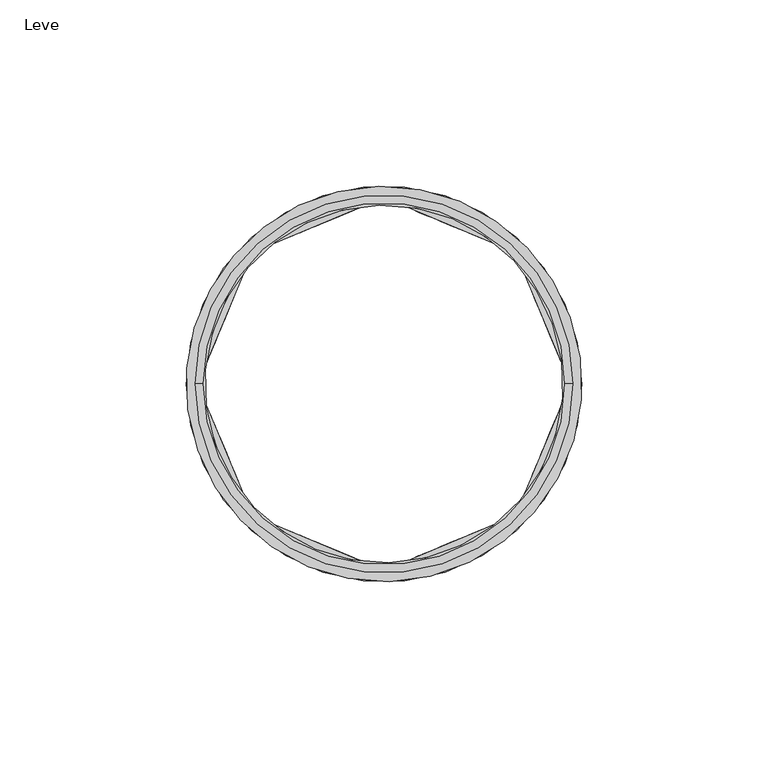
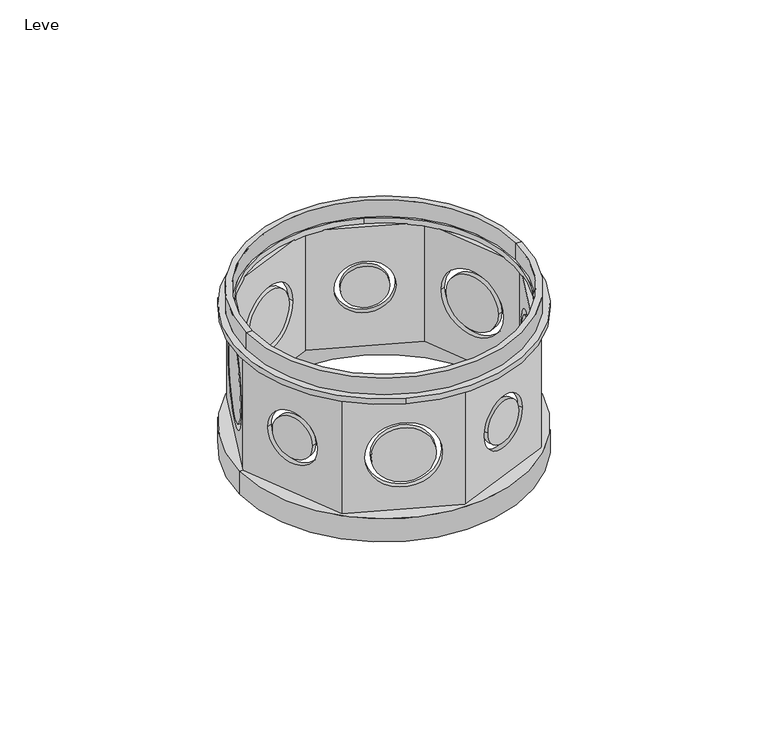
"""IFC4 building model written with IfcOpenShell, lengths in millimetres: pipe fitting geometry, AmancoWavin_ConexõesdoConduite_CorrugadoZNãoUsarProlongamento : Leve."""

from ifc_helpers import new_model, si_unit, frame, origin, place, context, project, spatial, polyline, circle_curve, source, transform, mapped, element, save
from ifc_brep_helpers import plane_surface, cylinder_surface, revolved_surface, advanced_brep


def leve_6d39340a(model_context):
    return source(origin(), model_context, "Body", "AdvancedBrep", [
        advanced_brep(
        [(-53.1, 0.0, 9.1), (53.1, 0.0, 9.1), (51.9548256, 0.0, 9.1), (36.7376095, -36.7376095, 9.1), (0.0, -51.9548256, 9.1), (-36.7376095, -36.7376095, 9.1), (-51.9548256, 0.0, 9.1), (-36.7376095, 36.7376095, 9.1), (0.0, 51.9548256, 9.1), (36.7376095, 36.7376095, 9.1), (51.3, 0.0, 7.3), (-51.3, 0.0, 7.3), (-50.0065197, 0.0, 7.3), (-35.3599492, -35.3599492, 7.3), (0.0, -50.0065197, 7.3), (35.3599492, -35.3599492, 7.3), (50.0065197, 0.0, 7.3), (35.3599492, 35.3599492, 7.3), (0.0, 50.0065197, 7.3), (-35.3599492, 35.3599492, 7.3), (51.3, 0.0, 0.0), (-51.3, 0.0, 0.0), (53.1, 0.0, 0.0), (-53.1, 0.0, 0.0), (-50.0065197, 0.0, 53.6), (-35.3599492, 35.3599492, 53.6), (-37.7001142, 29.710291, 53.6), (-47.6663546, 5.6496582, 53.6), (-36.5602995, 32.4620471, 30.2), (-48.8061693, 2.8979021, 30.2), (-47.6663546, -5.6496582, 53.6), (-37.7001142, -29.710291, 53.6), (-35.3599492, -35.3599492, 53.6), (-46.5100687, -8.4411793, 30.2), (-38.8564001, -26.9187699, 30.2), (-29.710291, -37.7001142, 53.6), (-5.6496582, -47.6663546, 53.6), (0.0, -50.0065197, 53.6), (-29.2284687, -37.8996915, 30.2), (-6.1314804, -47.4667773, 30.2), (5.6496582, -47.6663546, 53.6), (29.710291, -37.7001142, 53.6), (35.3599492, -35.3599492, 53.6), (8.4411793, -46.5100687, 30.2), (26.9187699, -38.8564001, 30.2), (37.7001142, -29.710291, 53.6), (47.6663546, -5.6496582, 53.6), (50.0065197, 0.0, 53.6), (36.5602995, -32.4620471, 30.2), (48.8061693, -2.8979021, 30.2), (47.6663546, 5.6496582, 53.6), (37.7001142, 29.710291, 53.6), (35.3599492, 35.3599492, 53.6), (47.4667773, 6.1314804, 30.2), (37.8996915, 29.2284687, 30.2), (29.710291, 37.7001142, 53.6), (5.6496582, 47.6663546, 53.6), (0.0, 50.0065197, 53.6), (26.9187699, 38.8564001, 30.2), (8.4411793, 46.5100687, 30.2), (-5.6496582, 47.6663546, 53.6), (-29.710291, 37.7001142, 53.6), (-6.1314804, 47.4667773, 30.2), (-29.2284687, 37.8996915, 30.2), (-44.3462176, 18.3688048, 53.6), (-44.3462176, -18.3688048, 53.6), (-18.3688048, -44.3462176, 53.6), (18.3688048, -44.3462176, 53.6), (44.3462176, -18.3688048, 53.6), (44.3462176, 18.3688048, 53.6), (18.3688048, 44.3462176, 53.6), (-18.3688048, 44.3462176, 53.6), (-36.7376095, 36.7376095, 53.6), (-51.9548256, 0.0, 53.6), (-44.3462176, 18.3688048, 53.6), (-50.4691525, 3.5867322, 30.2), (-38.2232826, 33.1508773, 30.2), (-36.7376095, -36.7376095, 53.6), (-44.3462176, -18.3688048, 53.6), (-40.5193832, -27.6076001, 30.2), (-48.1730519, -9.1300094, 30.2), (0.0, -51.9548256, 53.6), (-18.3688048, -44.3462176, 53.6), (-6.8203106, -49.1297605, 30.2), (-29.9172989, -39.5626747, 30.2), (36.7376095, -36.7376095, 53.6), (18.3688048, -44.3462176, 53.6), (27.6076001, -40.5193832, 30.2), (9.1300094, -48.1730519, 30.2), (51.9548256, 0.0, 53.6), (44.3462176, -18.3688048, 53.6), (50.4691525, -3.5867322, 30.2), (38.2232826, -33.1508773, 30.2), (36.7376095, 36.7376095, 53.6), (44.3462176, 18.3688048, 53.6), (39.5626747, 29.9172989, 30.2), (49.1297605, 6.8203106, 30.2), (0.0, 51.9548256, 53.6), (18.3688048, 44.3462176, 53.6), (9.1300094, 48.1730519, 30.2), (27.6076001, 40.5193832, 30.2), (-18.3688048, 44.3462176, 53.6), (-29.9172989, 39.5626747, 30.2), (-6.8203106, 49.1297605, 30.2), (20.3204903, 49.0580032, 55.7), (-20.3204903, -49.0580032, 55.7), (50.7, 0.0, 55.7), (-50.7, 0.0, 55.7), (-48.6, 0.0, 55.7), (48.6, 0.0, 55.7), (18.3688048, 44.3462176, 55.7), (-18.3688048, -44.3462176, 55.7), (20.3204903, 49.0580032, 53.6), (-20.3204903, -49.0580032, 53.6), (-48.6, 0.0, 62.2), (48.6, 0.0, 62.2), (50.7, 0.0, 62.2), (-50.7, 0.0, 62.2)],
        [
            (0, 1, circle_curve(frame((0.0, 0.0, 9.1), z_axis=(0.0, 0.0, 1.0), x_axis=(-1.0, 0.0, 0.0)), 53.1)),
            (1, 2),
            (2, 3),
            (3, 4),
            (4, 5),
            (5, 6),
            (6, 0),
            (1, 0, circle_curve(frame((0.0, 0.0, 9.1), z_axis=(0.0, 0.0, 1.0), x_axis=(-1.0, 0.0, 0.0)), 53.1)),
            (6, 7),
            (7, 8),
            (8, 9),
            (9, 2),
            (10, 11, circle_curve(frame((0.0, 0.0, 7.3), z_axis=(0.0, 0.0, -1.0), x_axis=(-1.0, 0.0, 0.0)), 51.3)),
            (11, 12),
            (12, 13),
            (13, 14),
            (14, 15),
            (15, 16),
            (16, 10),
            (11, 10, circle_curve(frame((0.0, 0.0, 7.3), z_axis=(0.0, 0.0, -1.0), x_axis=(-1.0, 0.0, 0.0)), 51.3)),
            (16, 17),
            (17, 18),
            (18, 19),
            (19, 12),
            (10, 20),
            (20, 21, circle_curve(frame((0.0, 0.0, 0.0), z_axis=(0.0, 0.0, -1.0), x_axis=(-1.0, 0.0, 0.0)), 51.3)),
            (21, 11),
            (21, 20, circle_curve(frame((0.0, 0.0, 0.0), z_axis=(0.0, 0.0, -1.0), x_axis=(-1.0, 0.0, 0.0)), 51.3)),
            (20, 22),
            (22, 23, circle_curve(frame((0.0, 0.0, 0.0), z_axis=(0.0, 0.0, -1.0), x_axis=(-1.0, 0.0, 0.0)), 53.1)),
            (23, 21),
            (23, 22, circle_curve(frame((0.0, 0.0, 0.0), z_axis=(0.0, 0.0, -1.0), x_axis=(-1.0, 0.0, 0.0)), 53.1)),
            (0, 23),
            (22, 1),
            (24, 12),
            (19, 25),
            (25, 26),
            (26, 27),
            (27, 24),
            (28, 29, circle_curve(frame((-42.6832344, 17.6799746, 30.2), z_axis=(-0.9238795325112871, 0.38268343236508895, 0.0), x_axis=(-0.38268343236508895, -0.9238795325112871, 0.0)), 16.0)),
            (29, 28, circle_curve(frame((-42.6832344, 17.6799746, 30.2), z_axis=(-0.9238795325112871, 0.38268343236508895, 0.0), x_axis=(-0.38268343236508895, -0.9238795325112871, 0.0)), 16.0)),
            (24, 30),
            (30, 31),
            (31, 32),
            (32, 13),
            (33, 34, circle_curve(frame((-42.6832344, -17.6799746, 30.2), z_axis=(-0.9238795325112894, -0.3826834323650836, 0.0), x_axis=(0.3826834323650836, -0.9238795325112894, 0.0)), 10.0)),
            (34, 33, circle_curve(frame((-42.6832344, -17.6799746, 30.2), z_axis=(-0.9238795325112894, -0.3826834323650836, 0.0), x_axis=(0.3826834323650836, -0.9238795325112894, 0.0)), 10.0)),
            (32, 35),
            (35, 36),
            (36, 37),
            (37, 14),
            (38, 39, circle_curve(frame((-17.6799746, -42.6832344, 30.2), z_axis=(-0.38268343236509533, -0.9238795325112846, 0.0), x_axis=(-0.9238795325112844, 0.3826834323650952, 0.0)), 12.5)),
            (39, 38, circle_curve(frame((-17.6799746, -42.6832344, 30.2), z_axis=(-0.38268343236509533, -0.9238795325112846, 0.0), x_axis=(-0.9238795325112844, 0.3826834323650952, 0.0)), 12.5)),
            (37, 40),
            (40, 41),
            (41, 42),
            (42, 15),
            (43, 44, circle_curve(frame((17.6799746, -42.6832344, 30.2), z_axis=(0.3826834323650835, -0.9238795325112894, 0.0), x_axis=(0.9238795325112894, 0.3826834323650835, 0.0)), 10.0)),
            (44, 43, circle_curve(frame((17.6799746, -42.6832344, 30.2), z_axis=(0.3826834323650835, -0.9238795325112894, 0.0), x_axis=(0.9238795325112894, 0.3826834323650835, 0.0)), 10.0)),
            (42, 45),
            (45, 46),
            (46, 47),
            (47, 16),
            (48, 49, circle_curve(frame((42.6832344, -17.6799746, 30.2), z_axis=(0.9238795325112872, -0.38268343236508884, 0.0), x_axis=(-0.38268343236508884, -0.9238795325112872, 0.0)), 16.0)),
            (49, 48, circle_curve(frame((42.6832344, -17.6799746, 30.2), z_axis=(0.9238795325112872, -0.38268343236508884, 0.0), x_axis=(-0.38268343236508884, -0.9238795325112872, 0.0)), 16.0)),
            (47, 50),
            (50, 51),
            (51, 52),
            (52, 17),
            (53, 54, circle_curve(frame((42.6832344, 17.6799746, 30.2), z_axis=(0.9238795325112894, 0.38268343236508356, 0.0), x_axis=(0.38268343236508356, -0.9238795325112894, 0.0)), 12.5)),
            (54, 53, circle_curve(frame((42.6832344, 17.6799746, 30.2), z_axis=(0.9238795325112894, 0.38268343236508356, 0.0), x_axis=(0.38268343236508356, -0.9238795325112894, 0.0)), 12.5)),
            (52, 55),
            (55, 56),
            (56, 57),
            (57, 18),
            (58, 59, circle_curve(frame((17.6799746, 42.6832344, 30.2), z_axis=(0.3826834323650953, 0.9238795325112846, 0.0), x_axis=(0.9238795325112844, -0.38268343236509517, 0.0)), 10.0)),
            (59, 58, circle_curve(frame((17.6799746, 42.6832344, 30.2), z_axis=(0.3826834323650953, 0.9238795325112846, 0.0), x_axis=(0.9238795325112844, -0.38268343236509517, 0.0)), 10.0)),
            (57, 60),
            (60, 61),
            (61, 25),
            (62, 63, circle_curve(frame((-17.6799746, 42.6832344, 30.2), z_axis=(-0.3826834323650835, 0.9238795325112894, 0.0), x_axis=(-0.9238795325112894, -0.3826834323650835, 0.0)), 12.5)),
            (63, 62, circle_curve(frame((-17.6799746, 42.6832344, 30.2), z_axis=(-0.3826834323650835, 0.9238795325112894, 0.0), x_axis=(-0.9238795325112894, -0.3826834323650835, 0.0)), 12.5)),
            (26, 64, circle_curve(frame((0.0, 0.0, 53.6), z_axis=(0.0, 0.0, 1.0), x_axis=(-0.3826834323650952, -0.9238795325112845, 0.0)), 48.0)),
            (64, 27, circle_curve(frame((0.0, 0.0, 53.6), z_axis=(0.0, 0.0, 1.0), x_axis=(-0.3826834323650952, -0.9238795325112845, 0.0)), 48.0)),
            (30, 65, circle_curve(frame((0.0, 0.0, 53.6), z_axis=(0.0, 0.0, 1.0), x_axis=(-0.3826834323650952, -0.9238795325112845, 0.0)), 48.0)),
            (65, 31, circle_curve(frame((0.0, 0.0, 53.6), z_axis=(0.0, 0.0, 1.0), x_axis=(-0.3826834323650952, -0.9238795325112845, 0.0)), 48.0)),
            (35, 66, circle_curve(frame((0.0, 0.0, 53.6), z_axis=(0.0, 0.0, 1.0), x_axis=(-0.3826834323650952, -0.9238795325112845, 0.0)), 48.0)),
            (66, 36, circle_curve(frame((0.0, 0.0, 53.6), z_axis=(0.0, 0.0, 1.0), x_axis=(-0.3826834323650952, -0.9238795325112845, 0.0)), 48.0)),
            (40, 67, circle_curve(frame((0.0, 0.0, 53.6), z_axis=(0.0, 0.0, 1.0), x_axis=(-0.3826834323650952, -0.9238795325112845, 0.0)), 48.0)),
            (67, 41, circle_curve(frame((0.0, 0.0, 53.6), z_axis=(0.0, 0.0, 1.0), x_axis=(-0.3826834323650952, -0.9238795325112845, 0.0)), 48.0)),
            (45, 68, circle_curve(frame((0.0, 0.0, 53.6), z_axis=(0.0, 0.0, 1.0), x_axis=(-0.3826834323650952, -0.9238795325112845, 0.0)), 48.0)),
            (68, 46, circle_curve(frame((0.0, 0.0, 53.6), z_axis=(0.0, 0.0, 1.0), x_axis=(-0.3826834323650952, -0.9238795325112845, 0.0)), 48.0)),
            (50, 69, circle_curve(frame((0.0, 0.0, 53.6), z_axis=(0.0, 0.0, 1.0), x_axis=(-0.3826834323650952, -0.9238795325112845, 0.0)), 48.0)),
            (69, 51, circle_curve(frame((0.0, 0.0, 53.6), z_axis=(0.0, 0.0, 1.0), x_axis=(-0.3826834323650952, -0.9238795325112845, 0.0)), 48.0)),
            (55, 70, circle_curve(frame((0.0, 0.0, 53.6), z_axis=(0.0, 0.0, 1.0), x_axis=(-0.3826834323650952, -0.9238795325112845, 0.0)), 48.0)),
            (70, 56, circle_curve(frame((0.0, 0.0, 53.6), z_axis=(0.0, 0.0, 1.0), x_axis=(-0.3826834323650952, -0.9238795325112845, 0.0)), 48.0)),
            (60, 71, circle_curve(frame((0.0, 0.0, 53.6), z_axis=(0.0, 0.0, 1.0), x_axis=(-0.3826834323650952, -0.9238795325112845, 0.0)), 48.0)),
            (71, 61, circle_curve(frame((0.0, 0.0, 53.6), z_axis=(0.0, 0.0, 1.0), x_axis=(-0.3826834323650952, -0.9238795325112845, 0.0)), 48.0)),
            (72, 7),
            (6, 73),
            (73, 74),
            (74, 72),
            (75, 76, circle_curve(frame((-44.3462176, 18.3688048, 30.2), z_axis=(0.9238795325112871, -0.38268343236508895, 0.0), x_axis=(-0.38268343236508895, -0.9238795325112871, 0.0)), 16.0)),
            (76, 75, circle_curve(frame((-44.3462176, 18.3688048, 30.2), z_axis=(0.9238795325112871, -0.38268343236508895, 0.0), x_axis=(-0.38268343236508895, -0.9238795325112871, 0.0)), 16.0)),
            (5, 77),
            (77, 78),
            (78, 73),
            (79, 80, circle_curve(frame((-44.3462176, -18.3688048, 30.2), z_axis=(0.9238795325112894, 0.3826834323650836, 0.0), x_axis=(0.3826834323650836, -0.9238795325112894, 0.0)), 10.0)),
            (80, 79, circle_curve(frame((-44.3462176, -18.3688048, 30.2), z_axis=(0.9238795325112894, 0.3826834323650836, 0.0), x_axis=(0.3826834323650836, -0.9238795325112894, 0.0)), 10.0)),
            (4, 81),
            (81, 82),
            (82, 77),
            (83, 84, circle_curve(frame((-18.3688048, -44.3462176, 30.2), z_axis=(0.38268343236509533, 0.9238795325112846, 0.0), x_axis=(-0.9238795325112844, 0.3826834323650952, 0.0)), 12.5)),
            (84, 83, circle_curve(frame((-18.3688048, -44.3462176, 30.2), z_axis=(0.38268343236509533, 0.9238795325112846, 0.0), x_axis=(-0.9238795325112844, 0.3826834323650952, 0.0)), 12.5)),
            (3, 85),
            (85, 86),
            (86, 81),
            (87, 88, circle_curve(frame((18.3688048, -44.3462176, 30.2), z_axis=(-0.3826834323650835, 0.9238795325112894, 0.0), x_axis=(0.9238795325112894, 0.3826834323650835, 0.0)), 10.0)),
            (88, 87, circle_curve(frame((18.3688048, -44.3462176, 30.2), z_axis=(-0.3826834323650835, 0.9238795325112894, 0.0), x_axis=(0.9238795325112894, 0.3826834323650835, 0.0)), 10.0)),
            (2, 89),
            (89, 90),
            (90, 85),
            (91, 92, circle_curve(frame((44.3462176, -18.3688048, 30.2), z_axis=(-0.9238795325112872, 0.38268343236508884, 0.0), x_axis=(-0.38268343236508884, -0.9238795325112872, 0.0)), 16.0)),
            (92, 91, circle_curve(frame((44.3462176, -18.3688048, 30.2), z_axis=(-0.9238795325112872, 0.38268343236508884, 0.0), x_axis=(-0.38268343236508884, -0.9238795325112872, 0.0)), 16.0)),
            (9, 93),
            (93, 94),
            (94, 89),
            (95, 96, circle_curve(frame((44.3462176, 18.3688048, 30.2), z_axis=(-0.9238795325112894, -0.38268343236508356, 0.0), x_axis=(0.38268343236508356, -0.9238795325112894, 0.0)), 12.5)),
            (96, 95, circle_curve(frame((44.3462176, 18.3688048, 30.2), z_axis=(-0.9238795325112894, -0.38268343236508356, 0.0), x_axis=(0.38268343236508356, -0.9238795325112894, 0.0)), 12.5)),
            (8, 97),
            (97, 98),
            (98, 93),
            (99, 100, circle_curve(frame((18.3688048, 44.3462176, 30.2), z_axis=(-0.3826834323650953, -0.9238795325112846, 0.0), x_axis=(0.9238795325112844, -0.38268343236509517, 0.0)), 10.0)),
            (100, 99, circle_curve(frame((18.3688048, 44.3462176, 30.2), z_axis=(-0.3826834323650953, -0.9238795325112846, 0.0), x_axis=(0.9238795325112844, -0.38268343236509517, 0.0)), 10.0)),
            (72, 101),
            (101, 97),
            (102, 103, circle_curve(frame((-18.3688048, 44.3462176, 30.2), z_axis=(0.3826834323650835, -0.9238795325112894, 0.0), x_axis=(-0.9238795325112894, -0.3826834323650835, 0.0)), 12.5)),
            (103, 102, circle_curve(frame((-18.3688048, 44.3462176, 30.2), z_axis=(0.3826834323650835, -0.9238795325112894, 0.0), x_axis=(-0.9238795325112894, -0.3826834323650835, 0.0)), 12.5)),
            (28, 76),
            (75, 29),
            (33, 80),
            (79, 34),
            (91, 49),
            (48, 92),
            (95, 54),
            (53, 96),
            (62, 103),
            (102, 63),
            (83, 39),
            (38, 84),
            (99, 59),
            (58, 100),
            (43, 88),
            (87, 44),
            (104, 105, circle_curve(frame((0.0, 0.0, 55.7), z_axis=(0.0, 0.0, 1.0), x_axis=(-0.3826834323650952, -0.9238795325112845, 0.0)), 53.1)),
            (105, 104, circle_curve(frame((0.0, 0.0, 55.7), z_axis=(0.0, 0.0, 1.0), x_axis=(-0.3826834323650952, -0.9238795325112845, 0.0)), 53.1)),
            (106, 107, circle_curve(frame((0.0, 0.0, 55.7), z_axis=(0.0, 0.0, -1.0), x_axis=(-1.0, 0.0, 0.0)), 50.7)),
            (107, 106, circle_curve(frame((0.0, 0.0, 55.7), z_axis=(0.0, 0.0, -1.0), x_axis=(-1.0, 0.0, 0.0)), 50.7)),
            (108, 109, circle_curve(frame((0.0, 0.0, 55.7), z_axis=(0.0, 0.0, 1.0), x_axis=(-1.0, 0.0, 0.0)), 48.6)),
            (109, 108, circle_curve(frame((0.0, 0.0, 55.7), z_axis=(0.0, 0.0, 1.0), x_axis=(-1.0, 0.0, 0.0)), 48.6)),
            (110, 111, circle_curve(frame((0.0, 0.0, 55.7), z_axis=(0.0, 0.0, -1.0), x_axis=(-0.3826834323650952, -0.9238795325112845, 0.0)), 48.0)),
            (111, 110, circle_curve(frame((0.0, 0.0, 55.7), z_axis=(0.0, 0.0, -1.0), x_axis=(-0.3826834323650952, -0.9238795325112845, 0.0)), 48.0)),
            (112, 113, circle_curve(frame((0.0, 0.0, 53.6), z_axis=(0.0, 0.0, -1.0), x_axis=(-0.3826834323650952, -0.9238795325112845, 0.0)), 53.1)),
            (113, 112, circle_curve(frame((0.0, 0.0, 53.6), z_axis=(0.0, 0.0, -1.0), x_axis=(-0.3826834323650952, -0.9238795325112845, 0.0)), 53.1)),
            (61, 26, circle_curve(frame((0.0, 0.0, 53.6), z_axis=(0.0, 0.0, 1.0), x_axis=(-0.3826834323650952, -0.9238795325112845, 0.0)), 48.0)),
            (56, 60, circle_curve(frame((0.0, 0.0, 53.6), z_axis=(0.0, 0.0, 1.0), x_axis=(-0.3826834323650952, -0.9238795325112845, 0.0)), 48.0)),
            (51, 55, circle_curve(frame((0.0, 0.0, 53.6), z_axis=(0.0, 0.0, 1.0), x_axis=(-0.3826834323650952, -0.9238795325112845, 0.0)), 48.0)),
            (46, 50, circle_curve(frame((0.0, 0.0, 53.6), z_axis=(0.0, 0.0, 1.0), x_axis=(-0.3826834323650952, -0.9238795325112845, 0.0)), 48.0)),
            (41, 45, circle_curve(frame((0.0, 0.0, 53.6), z_axis=(0.0, 0.0, 1.0), x_axis=(-0.3826834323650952, -0.9238795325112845, 0.0)), 48.0)),
            (36, 40, circle_curve(frame((0.0, 0.0, 53.6), z_axis=(0.0, 0.0, 1.0), x_axis=(-0.3826834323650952, -0.9238795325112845, 0.0)), 48.0)),
            (27, 30, circle_curve(frame((0.0, 0.0, 53.6), z_axis=(0.0, 0.0, 1.0), x_axis=(-0.3826834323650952, -0.9238795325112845, 0.0)), 48.0)),
            (31, 35, circle_curve(frame((0.0, 0.0, 53.6), z_axis=(0.0, 0.0, 1.0), x_axis=(-0.3826834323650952, -0.9238795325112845, 0.0)), 48.0)),
            (104, 112),
            (113, 105),
            (110, 70),
            (66, 111),
            (108, 114),
            (114, 115, circle_curve(frame((0.0, 0.0, 62.2), z_axis=(0.0, 0.0, 1.0), x_axis=(-1.0, 0.0, 0.0)), 48.6)),
            (115, 109),
            (115, 114, circle_curve(frame((0.0, 0.0, 62.2), z_axis=(0.0, 0.0, 1.0), x_axis=(-1.0, 0.0, 0.0)), 48.6)),
            (116, 117, circle_curve(frame((0.0, 0.0, 62.2), z_axis=(0.0, 0.0, -1.0), x_axis=(-1.0, 0.0, 0.0)), 50.7)),
            (117, 107),
            (106, 116),
            (117, 116, circle_curve(frame((0.0, 0.0, 62.2), z_axis=(0.0, 0.0, -1.0), x_axis=(-1.0, 0.0, 0.0)), 50.7)),
            (114, 117),
            (116, 115),
        ],
        [
            plane_surface(frame((0.0, 0.0, 9.1), z_axis=(0.0, 0.0, 1.0), x_axis=(-1.0, 0.0, 0.0))),
            plane_surface(frame((0.0, 0.0, 7.3), z_axis=(0.0, 0.0, -1.0), x_axis=(-1.0, 0.0, 0.0))),
            revolved_surface(polyline([(-51.3, 0.0, 7.300000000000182), (-51.3, 0.0, 0.0)]), (0.0, 0.0, -2214.3150031), (0.0, 0.0, 1.0)),
            plane_surface(frame((0.0, 0.0, 0.0), z_axis=(0.0, 0.0, -1.0), x_axis=(-1.0, 0.0, 0.0))),
            cylinder_surface(frame((0.0, 0.0, -2214.3150031), z_axis=(0.0, 0.0, 1.0), x_axis=(-1.0, 0.0, 0.0)), 53.1),
            plane_surface(frame((-35.3599492, 35.3599492, 53.6), z_axis=(0.9238795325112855, -0.38268343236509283, 0.0), x_axis=(0.0, 0.0, -1.0))),
            plane_surface(frame((-50.0065197, 0.0, 53.6), z_axis=(0.9238795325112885, 0.3826834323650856, 0.0), x_axis=(0.0, 0.0, -1.0))),
            plane_surface(frame((-35.3599492, -35.3599492, 53.6), z_axis=(0.38268343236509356, 0.9238795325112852, 0.0), x_axis=(0.0, 0.0, -1.0))),
            plane_surface(frame((0.0, -50.0065197, 53.6), z_axis=(-0.38268343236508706, 0.923879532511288, 0.0), x_axis=(0.0, 0.0, -1.0))),
            plane_surface(frame((35.3599492, -35.3599492, 53.6), z_axis=(-0.9238795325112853, 0.3826834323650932, 0.0), x_axis=(0.0, 0.0, -1.0))),
            plane_surface(frame((50.0065197, 0.0, 53.6), z_axis=(-0.9238795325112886, -0.38268343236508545, 0.0), x_axis=(0.0, 0.0, -1.0))),
            plane_surface(frame((35.3599492, 35.3599492, 53.6), z_axis=(-0.3826834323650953, -0.9238795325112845, 0.0), x_axis=(0.0, 0.0, -1.0))),
            plane_surface(frame((0.0, 50.0065197, 53.6), z_axis=(0.3826834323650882, -0.9238795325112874, 0.0), x_axis=(0.0, 0.0, -1.0))),
            plane_surface(frame((-36.7376095, 36.7376095, 53.6), z_axis=(0.0, 0.0, 1.0000000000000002), x_axis=(-0.3826834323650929, -0.9238795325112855, 0.0))),
            plane_surface(frame((-36.7376095, 36.7376095, 53.6), z_axis=(-0.9238795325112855, 0.3826834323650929, 0.0), x_axis=(0.0, 0.0, -1.0))),
            plane_surface(frame((-51.9548256, 0.0, 53.6), z_axis=(-0.9238795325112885, -0.3826834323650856, 0.0), x_axis=(0.0, 0.0, -1.0))),
            plane_surface(frame((-36.7376095, -36.7376095, 53.6), z_axis=(-0.3826834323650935, -0.9238795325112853, 0.0), x_axis=(0.0, 0.0, -1.0))),
            plane_surface(frame((0.0, -51.9548256, 53.6), z_axis=(0.3826834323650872, -0.9238795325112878, 0.0), x_axis=(0.0, 0.0, -1.0))),
            plane_surface(frame((36.7376095, -36.7376095, 53.6), z_axis=(0.9238795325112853, -0.3826834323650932, 0.0), x_axis=(0.0, 0.0, -1.0))),
            plane_surface(frame((51.9548256, 0.0, 53.6), z_axis=(0.9238795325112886, 0.3826834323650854, 0.0), x_axis=(0.0, 0.0, -1.0))),
            plane_surface(frame((36.7376095, 36.7376095, 53.6), z_axis=(0.38268343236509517, 0.9238795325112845, 0.0), x_axis=(0.0, 0.0, -1.0))),
            plane_surface(frame((0.0, 51.9548256, 53.6), z_axis=(-0.3826834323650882, 0.9238795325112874, 0.0), x_axis=(0.0, 0.0, -1.0))),
            revolved_surface(polyline([(-48.806169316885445, 2.8979020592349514, 30.2), (-50.46915252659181, 3.58673225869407, 30.2)]), (113.1333485, -46.8613673, 30.2), (0.9238795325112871, -0.38268343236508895, 0.0)),
            revolved_surface(polyline([(-38.85640007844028, -26.918769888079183, 30.2), (-40.519383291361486, -27.607600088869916, 30.2)]), (-88.9612962, -36.8489754, 30.2), (0.9238795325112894, 0.3826834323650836, 0.0)),
            revolved_surface(polyline([(38.22328269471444, -33.15087728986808, 30.2), (36.560299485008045, -32.46204709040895, 30.2)]), (113.1333485, -46.8613673, 30.2), (0.9238795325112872, -0.38268343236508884, 0.0)),
            revolved_surface(polyline([(49.12976051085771, 6.820310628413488, 30.2), (47.4667772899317, 6.131480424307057, 30.2)]), (-88.9612962, -36.8489754, 30.2), (0.9238795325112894, 0.38268343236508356, 0.0)),
            revolved_surface(polyline([(-29.22846871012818, 37.89969149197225, 30.2), (-29.91729891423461, 39.56267471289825, 30.2)]), (-28.4016141, 68.567562, 30.2), (0.3826834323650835, -0.9238795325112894, 0.0)),
            revolved_surface(polyline([(-29.9172989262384, -39.56267470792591, 30.2), (-29.228468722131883, -37.899691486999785, 30.2)]), (36.0484894, 87.028752, 30.2), (-0.3826834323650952, -0.9238795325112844, 0.0)),
            revolved_surface(polyline([(27.607600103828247, 40.51938328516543, 30.2), (26.918769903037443, 38.856400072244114, 30.2)]), (36.0484894, 87.028752, 30.2), (0.38268343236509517, 0.9238795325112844, 0.0)),
            revolved_surface(polyline([(26.918769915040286, -38.85640006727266, 30.2), (27.607600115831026, -40.519383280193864, 30.2)]), (-28.4016141, 68.567562, 30.2), (-0.3826834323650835, 0.9238795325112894, 0.0)),
            plane_surface(frame((-20.3204903, -49.0580032, 55.7), z_axis=(0.0, 0.0, 1.0), x_axis=(0.9238795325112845, -0.3826834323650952, 0.0))),
            plane_surface(frame((-20.3204903, -49.0580032, 53.6), z_axis=(0.0, 0.0, -1.0), x_axis=(-0.9238795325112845, 0.3826834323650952, 0.0))),
            cylinder_surface(frame((0.0, 0.0, 53.6), z_axis=(0.0, 0.0, 1.0), x_axis=(-0.3826834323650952, -0.9238795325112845, 0.0)), 53.1),
            revolved_surface(polyline([(-18.36880475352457, -44.34621756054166, 53.6), (-18.36880475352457, -44.34621756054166, 55.7)]), (0.0, 0.0, 30.2), (0.0, 0.0, -1.0)),
            revolved_surface(polyline([(-48.6, 0.0, 62.19999999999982), (-48.6, 0.0, 55.69999999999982)]), (0.0, 0.0, -2214.3150031), (0.0, 0.0, 1.0)),
            cylinder_surface(frame((0.0, 0.0, -2214.3150031), z_axis=(0.0, 0.0, 1.0), x_axis=(-1.0, 0.0, 0.0)), 50.7),
            plane_surface(frame((0.0, 0.0, 62.2), z_axis=(0.0, 0.0, 1.0), x_axis=(-1.0, 0.0, 0.0))),
        ],
        [
            (0, [[1, 2, 3, 4, 5, 6, 7]]),
            (0, [[8, -7, 9, 10, 11, 12, -2]]),
            (1, [[13, 14, 15, 16, 17, 18, 19]]),
            (1, [[20, -19, 21, 22, 23, 24, -14]]),
            (2, [[-13, 25, 26, 27]]),
            (2, [[-20, -27, 28, -25]]),
            (3, [[-26, 29, 30, 31]]),
            (3, [[-28, -31, 32, -29]]),
            (4, [[-1, 33, -30, 34]]),
            (4, [[-8, -34, -32, -33]]),
            (5, [[35, -24, 36, 37, 38, 39], [40, 41]]),
            (6, [[-35, 42, 43, 44, 45, -15], [46, 47]]),
            (7, [[-45, 48, 49, 50, 51, -16], [52, 53]]),
            (8, [[-51, 54, 55, 56, 57, -17], [58, 59]]),
            (9, [[-57, 60, 61, 62, 63, -18], [64, 65]]),
            (10, [[-63, 66, 67, 68, 69, -21], [70, 71]]),
            (11, [[-69, 72, 73, 74, 75, -22], [76, 77]]),
            (12, [[-36, -23, -75, 78, 79, 80], [81, 82]]),
            (13, [[-38, 83, 84]]),
            (13, [[-43, 85, 86]]),
            (13, [[-49, 87, 88]]),
            (13, [[-55, 89, 90]]),
            (13, [[-61, 91, 92]]),
            (13, [[-67, 93, 94]]),
            (13, [[-73, 95, 96]]),
            (13, [[-79, 97, 98]]),
            (14, [[99, -9, 100, 101, 102], [103, 104]]),
            (15, [[-100, -6, 105, 106, 107], [108, 109]]),
            (16, [[-105, -5, 110, 111, 112], [113, 114]]),
            (17, [[-110, -4, 115, 116, 117], [118, 119]]),
            (18, [[-115, -3, 120, 121, 122], [123, 124]]),
            (19, [[-120, -12, 125, 126, 127], [128, 129]]),
            (20, [[-125, -11, 130, 131, 132], [133, 134]]),
            (21, [[-99, 135, 136, -130, -10], [137, 138]]),
            (22, [[139, -103, 140, -40]]),
            (22, [[-139, -41, -140, -104]]),
            (23, [[141, -108, 142, -46]]),
            (23, [[-141, -47, -142, -109]]),
            (24, [[143, -64, 144, -123]]),
            (24, [[-143, -124, -144, -65]]),
            (25, [[145, -70, 146, -128]]),
            (25, [[-145, -129, -146, -71]]),
            (26, [[147, -137, 148, -81]]),
            (26, [[-147, -82, -148, -138]]),
            (27, [[149, -52, 150, -113]]),
            (27, [[-149, -114, -150, -53]]),
            (28, [[151, -76, 152, -133]]),
            (28, [[-151, -134, -152, -77]]),
            (29, [[153, -118, 154, -58]]),
            (29, [[-153, -59, -154, -119]]),
            (30, [[155, 156], [157, 158]]),
            (30, [[159, 160], [161, 162]]),
            (31, [[163, 164], [-102, -101, -107, -106, -112, -111, -117, -116, -122, -121, -127, -126, -132, -131, -136, -135]]),
            (31, [[165, -37, -80]]),
            (31, [[166, -78, -74]]),
            (31, [[167, -72, -68]]),
            (31, [[168, -66, -62]]),
            (31, [[169, -60, -56]]),
            (31, [[170, -54, -50]]),
            (31, [[171, -42, -39]]),
            (31, [[172, -48, -44]]),
            (32, [[-155, 173, -164, 174]]),
            (32, [[-156, -174, -163, -173]]),
            (33, [[-161, 175, -95, -167, -94, -93, -168, -92, -91, -169, -90, -89, -170, -88, 176]]),
            (33, [[-162, -176, -87, -172, -86, -85, -171, -84, -83, -165, -98, -97, -166, -96, -175]]),
            (34, [[177, 178, 179, -159]]),
            (34, [[-177, -160, -179, 180]]),
            (35, [[181, 182, -157, 183]]),
            (35, [[-182, 184, -183, -158]]),
            (36, [[-178, 185, -181, 186]]),
            (36, [[-180, -186, -184, -185]]),
        ],
    ),
        advanced_brep(
        [(-48.0408025, 4.7456611, 30.2), (-37.3256663, 30.614288, 30.2), (-38.9886495, 31.3031182, 30.2), (-49.7037856, 5.4344913, 30.2)],
        [
            (0, 1, circle_curve(frame((-42.6832344, 17.6799746, 30.2), z_axis=(0.9238795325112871, -0.38268343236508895, 0.0), x_axis=(-0.38268343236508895, -0.9238795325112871, 0.0)), 14.0)),
            (1, 0, circle_curve(frame((-42.6832344, 17.6799746, 30.2), z_axis=(0.9238795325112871, -0.38268343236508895, 0.0), x_axis=(-0.38268343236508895, -0.9238795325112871, 0.0)), 14.0)),
            (2, 3, circle_curve(frame((-44.3462176, 18.3688048, 30.2), z_axis=(-0.9238795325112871, 0.38268343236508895, 0.0), x_axis=(-0.38268343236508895, -0.9238795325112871, 0.0)), 14.0)),
            (3, 2, circle_curve(frame((-44.3462176, 18.3688048, 30.2), z_axis=(-0.9238795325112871, 0.38268343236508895, 0.0), x_axis=(-0.38268343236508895, -0.9238795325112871, 0.0)), 14.0)),
            (2, 1),
            (0, 3),
        ],
        [
            plane_surface(frame((-35.3599492, 35.3599492, 53.6), z_axis=(0.9238795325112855, -0.38268343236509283, 0.0), x_axis=(0.0, 0.0, -1.0))),
            plane_surface(frame((-36.7376095, 36.7376095, 53.6), z_axis=(-0.9238795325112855, 0.3826834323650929, 0.0), x_axis=(0.0, 0.0, -1.0))),
            cylinder_surface(frame((113.1333485, -46.8613673, 30.2), z_axis=(0.9238795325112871, -0.38268343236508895, 0.0), x_axis=(-0.38268343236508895, -0.9238795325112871, 0.0)), 14.0),
        ],
        [
            (0, [[1, 2]]),
            (1, [[3, 4]]),
            (2, [[5, -1, 6, -3]]),
            (2, [[-5, -4, -6, -2]]),
        ],
    ),
        advanced_brep(
        [(-39.6217669, -25.0710108, 30.2), (-45.7447019, -10.2889383, 30.2), (-47.407685, -10.9777685, 30.2), (-41.2847501, -25.759841, 30.2)],
        [
            (0, 1, circle_curve(frame((-42.6832344, -17.6799746, 30.2), z_axis=(0.9238795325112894, 0.3826834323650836, 0.0), x_axis=(0.3826834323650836, -0.9238795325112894, 0.0)), 8.0)),
            (1, 0, circle_curve(frame((-42.6832344, -17.6799746, 30.2), z_axis=(0.9238795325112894, 0.3826834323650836, 0.0), x_axis=(0.3826834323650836, -0.9238795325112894, 0.0)), 8.0)),
            (2, 3, circle_curve(frame((-44.3462176, -18.3688048, 30.2), z_axis=(-0.9238795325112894, -0.3826834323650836, 0.0), x_axis=(0.3826834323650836, -0.9238795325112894, 0.0)), 8.0)),
            (3, 2, circle_curve(frame((-44.3462176, -18.3688048, 30.2), z_axis=(-0.9238795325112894, -0.3826834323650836, 0.0), x_axis=(0.3826834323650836, -0.9238795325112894, 0.0)), 8.0)),
            (2, 1),
            (0, 3),
        ],
        [
            plane_surface(frame((-50.0065197, 0.0, 53.6), z_axis=(0.9238795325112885, 0.3826834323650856, 0.0), x_axis=(0.0, 0.0, -1.0))),
            plane_surface(frame((-51.9548256, 0.0, 53.6), z_axis=(-0.9238795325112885, -0.3826834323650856, 0.0), x_axis=(0.0, 0.0, -1.0))),
            cylinder_surface(frame((-88.9612962, -36.8489754, 30.2), z_axis=(0.9238795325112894, 0.3826834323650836, 0.0), x_axis=(0.3826834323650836, -0.9238795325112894, 0.0)), 8.0),
        ],
        [
            (0, [[1, 2]]),
            (1, [[3, 4]]),
            (2, [[5, -1, 6, -3]]),
            (2, [[-5, -4, -6, -2]]),
        ],
    ),
        advanced_brep(
        [(-7.9792395, -46.7014104, 30.2), (-27.3807097, -38.6650584, 30.2), (-28.0695398, -40.3280415, 30.2), (-8.6680697, -48.3643936, 30.2)],
        [
            (0, 1, circle_curve(frame((-17.6799746, -42.6832344, 30.2), z_axis=(0.38268343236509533, 0.9238795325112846, 0.0), x_axis=(-0.9238795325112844, 0.3826834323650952, 0.0)), 10.5)),
            (1, 0, circle_curve(frame((-17.6799746, -42.6832344, 30.2), z_axis=(0.38268343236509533, 0.9238795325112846, 0.0), x_axis=(-0.9238795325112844, 0.3826834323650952, 0.0)), 10.5)),
            (2, 3, circle_curve(frame((-18.3688048, -44.3462176, 30.2), z_axis=(-0.38268343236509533, -0.9238795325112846, 0.0), x_axis=(-0.9238795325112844, 0.3826834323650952, 0.0)), 10.5)),
            (3, 2, circle_curve(frame((-18.3688048, -44.3462176, 30.2), z_axis=(-0.38268343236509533, -0.9238795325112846, 0.0), x_axis=(-0.9238795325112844, 0.3826834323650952, 0.0)), 10.5)),
            (0, 3),
            (2, 1),
        ],
        [
            plane_surface(frame((-35.3599492, -35.3599492, 53.6), z_axis=(0.38268343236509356, 0.9238795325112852, 0.0), x_axis=(0.0, 0.0, -1.0))),
            plane_surface(frame((-36.7376095, -36.7376095, 53.6), z_axis=(-0.3826834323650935, -0.9238795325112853, 0.0), x_axis=(0.0, 0.0, -1.0))),
            cylinder_surface(frame((36.0484894, 87.028752, 30.2), z_axis=(-0.3826834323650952, -0.9238795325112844, 0.0), x_axis=(-0.9238795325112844, 0.3826834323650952, 0.0)), 10.5),
        ],
        [
            (0, [[1, 2]]),
            (1, [[3, 4]]),
            (2, [[5, -3, 6, -1]]),
            (2, [[-5, -2, -6, -4]]),
        ],
    ),
        advanced_brep(
        [(25.0710108, -39.6217669, 30.2), (10.2889383, -45.7447019, 30.2), (10.9777685, -47.407685, 30.2), (25.759841, -41.2847501, 30.2)],
        [
            (0, 1, circle_curve(frame((17.6799746, -42.6832344, 30.2), z_axis=(-0.3826834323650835, 0.9238795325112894, 0.0), x_axis=(0.9238795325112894, 0.3826834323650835, 0.0)), 8.0)),
            (1, 0, circle_curve(frame((17.6799746, -42.6832344, 30.2), z_axis=(-0.3826834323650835, 0.9238795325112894, 0.0), x_axis=(0.9238795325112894, 0.3826834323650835, 0.0)), 8.0)),
            (2, 3, circle_curve(frame((18.3688048, -44.3462176, 30.2), z_axis=(0.3826834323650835, -0.9238795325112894, 0.0), x_axis=(0.9238795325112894, 0.3826834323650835, 0.0)), 8.0)),
            (3, 2, circle_curve(frame((18.3688048, -44.3462176, 30.2), z_axis=(0.3826834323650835, -0.9238795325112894, 0.0), x_axis=(0.9238795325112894, 0.3826834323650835, 0.0)), 8.0)),
            (2, 1),
            (0, 3),
        ],
        [
            plane_surface(frame((0.0, -50.0065197, 53.6), z_axis=(-0.38268343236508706, 0.923879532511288, 0.0), x_axis=(0.0, 0.0, -1.0))),
            plane_surface(frame((0.0, -51.9548256, 53.6), z_axis=(0.3826834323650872, -0.9238795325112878, 0.0), x_axis=(0.0, 0.0, -1.0))),
            cylinder_surface(frame((-28.4016141, 68.567562, 30.2), z_axis=(-0.3826834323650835, 0.9238795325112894, 0.0), x_axis=(0.9238795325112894, 0.3826834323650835, 0.0)), 8.0),
        ],
        [
            (0, [[1, 2]]),
            (1, [[3, 4]]),
            (2, [[5, -1, 6, -3]]),
            (2, [[-5, -4, -6, -2]]),
        ],
    ),
        advanced_brep(
        [(48.0408025, -4.7456611, 30.2), (37.3256663, -30.614288, 30.2), (38.9886495, -31.3031182, 30.2), (49.7037856, -5.4344913, 30.2)],
        [
            (0, 1, circle_curve(frame((42.6832344, -17.6799746, 30.2), z_axis=(-0.9238795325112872, 0.38268343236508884, 0.0), x_axis=(-0.38268343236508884, -0.9238795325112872, 0.0)), 14.0)),
            (1, 0, circle_curve(frame((42.6832344, -17.6799746, 30.2), z_axis=(-0.9238795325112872, 0.38268343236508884, 0.0), x_axis=(-0.38268343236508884, -0.9238795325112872, 0.0)), 14.0)),
            (2, 3, circle_curve(frame((44.3462176, -18.3688048, 30.2), z_axis=(0.9238795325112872, -0.38268343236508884, 0.0), x_axis=(-0.38268343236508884, -0.9238795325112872, 0.0)), 14.0)),
            (3, 2, circle_curve(frame((44.3462176, -18.3688048, 30.2), z_axis=(0.9238795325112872, -0.38268343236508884, 0.0), x_axis=(-0.38268343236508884, -0.9238795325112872, 0.0)), 14.0)),
            (0, 3),
            (2, 1),
        ],
        [
            plane_surface(frame((35.3599492, -35.3599492, 53.6), z_axis=(-0.9238795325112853, 0.3826834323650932, 0.0), x_axis=(0.0, 0.0, -1.0))),
            plane_surface(frame((36.7376095, -36.7376095, 53.6), z_axis=(0.9238795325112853, -0.3826834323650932, 0.0), x_axis=(0.0, 0.0, -1.0))),
            cylinder_surface(frame((113.1333485, -46.8613673, 30.2), z_axis=(0.9238795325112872, -0.38268343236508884, 0.0), x_axis=(-0.38268343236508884, -0.9238795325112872, 0.0)), 14.0),
        ],
        [
            (0, [[1, 2]]),
            (1, [[3, 4]]),
            (2, [[5, -3, 6, -1]]),
            (2, [[-5, -2, -6, -4]]),
        ],
    ),
        advanced_brep(
        [(38.6650584, 27.3807097, 30.2), (46.7014104, 7.9792395, 30.2), (48.3643936, 8.6680697, 30.2), (40.3280415, 28.0695398, 30.2)],
        [
            (0, 1, circle_curve(frame((42.6832344, 17.6799746, 30.2), z_axis=(-0.9238795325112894, -0.38268343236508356, 0.0), x_axis=(0.38268343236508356, -0.9238795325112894, 0.0)), 10.5)),
            (1, 0, circle_curve(frame((42.6832344, 17.6799746, 30.2), z_axis=(-0.9238795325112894, -0.38268343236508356, 0.0), x_axis=(0.38268343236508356, -0.9238795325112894, 0.0)), 10.5)),
            (2, 3, circle_curve(frame((44.3462176, 18.3688048, 30.2), z_axis=(0.9238795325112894, 0.38268343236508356, 0.0), x_axis=(0.38268343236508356, -0.9238795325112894, 0.0)), 10.5)),
            (3, 2, circle_curve(frame((44.3462176, 18.3688048, 30.2), z_axis=(0.9238795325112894, 0.38268343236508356, 0.0), x_axis=(0.38268343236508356, -0.9238795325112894, 0.0)), 10.5)),
            (0, 3),
            (2, 1),
        ],
        [
            plane_surface(frame((50.0065197, 0.0, 53.6), z_axis=(-0.9238795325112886, -0.38268343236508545, 0.0), x_axis=(0.0, 0.0, -1.0))),
            plane_surface(frame((51.9548256, 0.0, 53.6), z_axis=(0.9238795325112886, 0.3826834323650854, 0.0), x_axis=(0.0, 0.0, -1.0))),
            cylinder_surface(frame((-88.9612962, -36.8489754, 30.2), z_axis=(0.9238795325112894, 0.38268343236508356, 0.0), x_axis=(0.38268343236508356, -0.9238795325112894, 0.0)), 10.5),
        ],
        [
            (0, [[1, 2]]),
            (1, [[3, 4]]),
            (2, [[5, -3, 6, -1]]),
            (2, [[-5, -2, -6, -4]]),
        ],
    ),
        advanced_brep(
        [(10.2889383, 45.7447019, 30.2), (25.0710108, 39.6217669, 30.2), (25.759841, 41.2847501, 30.2), (10.9777685, 47.407685, 30.2)],
        [
            (0, 1, circle_curve(frame((17.6799746, 42.6832344, 30.2), z_axis=(-0.3826834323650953, -0.9238795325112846, 0.0), x_axis=(0.9238795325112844, -0.38268343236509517, 0.0)), 8.0)),
            (1, 0, circle_curve(frame((17.6799746, 42.6832344, 30.2), z_axis=(-0.3826834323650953, -0.9238795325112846, 0.0), x_axis=(0.9238795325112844, -0.38268343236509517, 0.0)), 8.0)),
            (2, 3, circle_curve(frame((18.3688048, 44.3462176, 30.2), z_axis=(0.3826834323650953, 0.9238795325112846, 0.0), x_axis=(0.9238795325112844, -0.38268343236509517, 0.0)), 8.0)),
            (3, 2, circle_curve(frame((18.3688048, 44.3462176, 30.2), z_axis=(0.3826834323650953, 0.9238795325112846, 0.0), x_axis=(0.9238795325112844, -0.38268343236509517, 0.0)), 8.0)),
            (0, 3),
            (2, 1),
        ],
        [
            plane_surface(frame((35.3599492, 35.3599492, 53.6), z_axis=(-0.3826834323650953, -0.9238795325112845, 0.0), x_axis=(0.0, 0.0, -1.0))),
            plane_surface(frame((36.7376095, 36.7376095, 53.6), z_axis=(0.38268343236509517, 0.9238795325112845, 0.0), x_axis=(0.0, 0.0, -1.0))),
            cylinder_surface(frame((36.0484894, 87.028752, 30.2), z_axis=(0.38268343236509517, 0.9238795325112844, 0.0), x_axis=(0.9238795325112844, -0.38268343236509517, 0.0)), 8.0),
        ],
        [
            (0, [[1, 2]]),
            (1, [[3, 4]]),
            (2, [[5, -3, 6, -1]]),
            (2, [[-5, -2, -6, -4]]),
        ],
    ),
        advanced_brep(
        [(-27.3807097, 38.6650584, 30.2), (-7.9792395, 46.7014104, 30.2), (-8.6680697, 48.3643936, 30.2), (-28.0695398, 40.3280415, 30.2)],
        [
            (0, 1, circle_curve(frame((-17.6799746, 42.6832344, 30.2), z_axis=(0.3826834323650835, -0.9238795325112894, 0.0), x_axis=(-0.9238795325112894, -0.3826834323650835, 0.0)), 10.5)),
            (1, 0, circle_curve(frame((-17.6799746, 42.6832344, 30.2), z_axis=(0.3826834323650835, -0.9238795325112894, 0.0), x_axis=(-0.9238795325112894, -0.3826834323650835, 0.0)), 10.5)),
            (2, 3, circle_curve(frame((-18.3688048, 44.3462176, 30.2), z_axis=(-0.3826834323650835, 0.9238795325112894, 0.0), x_axis=(-0.9238795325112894, -0.3826834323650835, 0.0)), 10.5)),
            (3, 2, circle_curve(frame((-18.3688048, 44.3462176, 30.2), z_axis=(-0.3826834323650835, 0.9238795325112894, 0.0), x_axis=(-0.9238795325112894, -0.3826834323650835, 0.0)), 10.5)),
            (2, 1),
            (0, 3),
        ],
        [
            plane_surface(frame((0.0, 50.0065197, 53.6), z_axis=(0.3826834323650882, -0.9238795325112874, 0.0), x_axis=(0.0, 0.0, -1.0))),
            plane_surface(frame((0.0, 51.9548256, 53.6), z_axis=(-0.3826834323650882, 0.9238795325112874, 0.0), x_axis=(0.0, 0.0, -1.0))),
            cylinder_surface(frame((-28.4016141, 68.567562, 30.2), z_axis=(0.3826834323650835, -0.9238795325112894, 0.0), x_axis=(-0.9238795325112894, -0.3826834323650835, 0.0)), 10.5),
        ],
        [
            (0, [[1, 2]]),
            (1, [[3, 4]]),
            (2, [[5, -1, 6, -3]]),
            (2, [[-5, -4, -6, -2]]),
        ],
    ),
    ])


if __name__ == "__main__":
    model = new_model("IFC4")
    model_context = context("Model", 3, world=origin())
    ifc_project = project(units=[si_unit("LENGTHUNIT", "METRE", prefix="MILLI")], contexts=[model_context])
    site = spatial("IfcSite", under=ifc_project)
    building = spatial("IfcBuilding", under=site)
    placement = place(None, origin())
    leve_shape = leve_6d39340a(model_context)
    element("IfcPipeFitting", 1, ObjectType="AmancoWavin_ConexõesdoConduite_CorrugadoZNãoUsarProlongamento : Leve", at=placement, inside=building, context=model_context, shape_type="MappedRepresentation", body=[
        mapped(leve_shape, transform((0.0, 0.0, 0.0), x_axis=(1.0, 0.0, 0.0), y_axis=(0.0, 1.0, 0.0), z_axis=(0.0, 0.0, 1.0))),
    ])
    save(model, "model.ifc")
